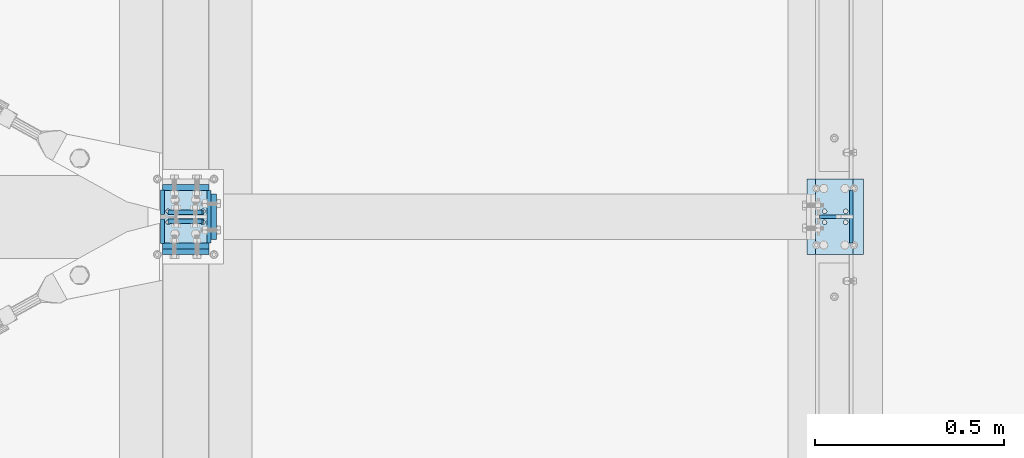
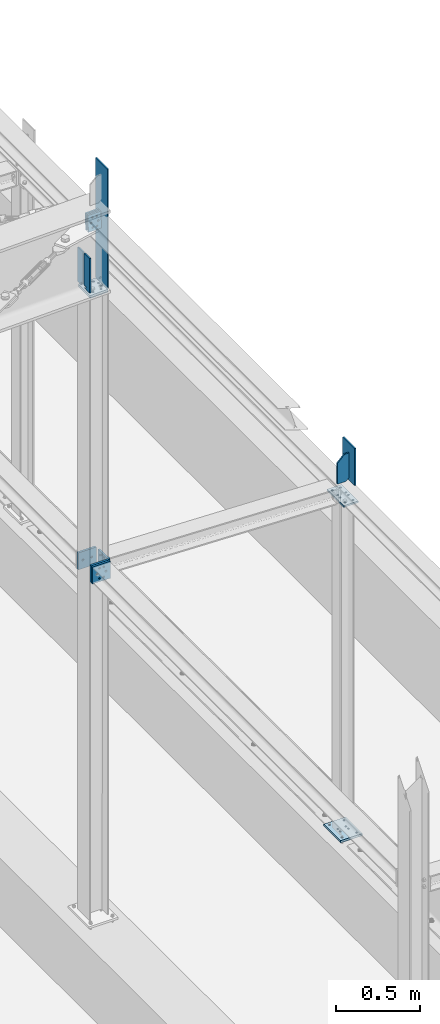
# One storey, part 43 of 476: 14 plates, 61 openings.
"""IFC2X3 building model written with IfcOpenShell, lengths in millimetres."""

from ifc_helpers import new_model, entity, si_unit, converted_unit, point, frame, frame_2d, origin, origin_with_axes, origin_2d_with_axis, place, context, project, spatial, polyline, circle_curve, line_curve, trimmed, segment, composite_curve, circle, outline, extrude, material, layer, layer_set, element, save


model = new_model("IFC2X3")

# Units and contexts
model_context = context("Model", 3, precision=1e-09, world=origin_with_axes())
ifc_project = project(units=[si_unit("LENGTHUNIT", "METRE", prefix="MILLI"), si_unit("AREAUNIT", "SQUARE_METRE"), si_unit("VOLUMEUNIT", "CUBIC_METRE"), converted_unit("PLANEANGLEUNIT", "DEGREE", entity("IfcPlaneAngleMeasure", 0.01745329), si_unit("PLANEANGLEUNIT", "RADIAN"), dimensions=[0, 0, 0, 0, 0, 0, 0])], contexts=[model_context])

# Site, building, storey
site_placement = place(None, origin_with_axes())
site = spatial("IfcSite", under=ifc_project, at=site_placement, Name="mKR Teilneubau & Sanierung BA1 - Ostfildern", CompositionType="ELEMENT")
building_placement = place(site_placement, origin_with_axes())
building = spatial("IfcBuilding", under=site, at=building_placement, Name="Struktur 1", CompositionType="ELEMENT")
storey_placement = place(building_placement, origin_with_axes())
storey = spatial("IfcBuildingStorey", under=building, at=storey_placement, Name="Default Storey", CompositionType="ELEMENT", Elevation=0.0)

# Plate
ifc_material = material(Name="S235JR")
ifc_layer_1 = layer(ifc_material, 10.0)
ifc_layer_set_1 = layer_set([ifc_layer_1], Name="S235JR")
plate_1_placement = place(None, frame((23723.608764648, -17475.67387897, 2465.729061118), z_axis=(1.0, 0.0, 0.0), x_axis=(0.0, 1.0, 0.0)))
element("IfcPlate", 1, at=plate_1_placement, inside=storey, material=ifc_layer_set_1, Name="Coverplate", ObjectType="Coverplate", context=model_context, shape_type="SweptSolid", body=[
    extrude(outline(polyline([(0.0, 600.270938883), (140.0, 600.270938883), (140.0, 870.270938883), (0.0, 870.270938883), (0.0, 600.270938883)])), origin_with_axes(), (0.0, 0.0, 1.0), 10.0),
])

# Plate, openings
plate_2_placement = place(None, frame((23643.608764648, -17400.67387897, 3266.000000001), z_axis=(0.0, 1.0, 0.0), x_axis=(1.0, 0.0, 0.0)))
plate_2 = element("IfcPlate", 2, at=plate_2_placement, inside=storey, material=ifc_layer_set_1, Name="-", ObjectType="-", context=model_context, shape_type="SweptSolid", body=[
    extrude(outline(polyline([(0.0, 0.0), (80.0, 0.0), (80.0, 200.0), (0.0, 200.0), (0.0, 0.0)])), origin_with_axes(), (0.0, 0.0, -1.0), 10.0),
])
opening_1_placement = place(plate_2_placement, frame((0.0, 0.0, 0.01), z_axis=(0.0, 0.0, 1.0), x_axis=(1.0, 0.0, 0.0)))
element("IfcOpeningElement", 3, at=opening_1_placement, cuts=plate_2, ObjectType="Opening", context=model_context, shape_type="SweptSolid", body=[
    extrude(outline(polyline([(0.0, 0.0), (50.0, 0.0), (0.0, 50.0), (0.0, 0.0)])), origin(), (0.0, 0.0, -1.0), 10.02),
])
opening_2_placement = place(plate_2_placement, frame((80.0, 200.0, 0.01), z_axis=(0.0, 0.0, 1.0), x_axis=(-1.0, 0.0, 0.0)))
element("IfcOpeningElement", 4, at=opening_2_placement, cuts=plate_2, ObjectType="Opening", context=model_context, shape_type="SweptSolid", body=[
    extrude(outline(polyline([(0.0, 0.0), (20.0, 0.0), (0.0, 20.0), (0.0, 0.0)])), origin(), (0.0, 0.0, -1.0), 10.02),
])

ifc_layer_2 = layer(ifc_material, 15.0)
ifc_layer_set_2 = layer_set([ifc_layer_2], Name="S235JR")
plate_3_placement = place(None, frame((23760.608764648, -17305.67387897, 540.0), z_axis=(0.0, 0.0, -1.0), x_axis=(0.0, -1.0, 0.0)))
plate_3 = element("IfcPlate", 5, at=plate_3_placement, inside=storey, material=ifc_layer_set_2, Name="Baseplate", ObjectType="Baseplate", context=model_context, shape_type="SweptSolid", body=[
    extrude(outline(polyline([(0.0, 0.0), (200.0, 0.0), (200.0, 150.0), (0.0, 150.0), (0.0, 0.0)])), origin_with_axes(), (0.0, 0.0, 1.0), 15.0),
])
opening_3_placement = place(plate_3_placement, frame((85.5, 103.0, 15.5), z_axis=(0.0, 0.0, -1.0), x_axis=(0.0, -1.0, 0.0)))
element("IfcOpeningElement", 6, at=opening_3_placement, cuts=plate_3, ObjectType="Opening", context=model_context, shape_type="SweptSolid", body=[
    extrude(circle(Radius=6.001, at=origin_2d_with_axis()), origin(), (0.0, 0.0, 1.0), 16.0),
])
opening_4_placement = place(plate_3_placement, frame((85.5, 47.0, 15.5), z_axis=(0.0, 0.0, -1.0), x_axis=(0.0, -1.0, 0.0)))
element("IfcOpeningElement", 7, at=opening_4_placement, cuts=plate_3, ObjectType="Opening", context=model_context, shape_type="SweptSolid", body=[
    extrude(circle(Radius=6.001, at=origin_2d_with_axis()), origin(), (0.0, 0.0, 1.0), 16.0),
])
opening_5_placement = place(plate_3_placement, frame((114.5, 47.0, 15.5), z_axis=(0.0, 0.0, -1.0), x_axis=(0.0, -1.0, 0.0)))
element("IfcOpeningElement", 8, at=opening_5_placement, cuts=plate_3, ObjectType="Opening", context=model_context, shape_type="SweptSolid", body=[
    extrude(circle(Radius=6.001, at=origin_2d_with_axis()), origin(), (0.0, 0.0, 1.0), 16.0),
])
opening_6_placement = place(plate_3_placement, frame((114.5, 103.0, 15.5), z_axis=(0.0, 0.0, -1.0), x_axis=(0.0, -1.0, 0.0)))
element("IfcOpeningElement", 9, at=opening_6_placement, cuts=plate_3, ObjectType="Opening", context=model_context, shape_type="SweptSolid", body=[
    extrude(circle(Radius=6.001, at=origin_2d_with_axis()), origin(), (0.0, 0.0, 1.0), 16.0),
])
opening_7_placement = place(plate_3_placement, frame((100.0, 75.0, 15.5), z_axis=(0.0, 0.0, -1.0), x_axis=(1.0, 0.0, 0.0)))
element("IfcOpeningElement", 10, at=opening_7_placement, cuts=plate_3, ObjectType="Opening", context=model_context, shape_type="SweptSolid", body=[
    extrude(circle(Radius=6.001, at=frame_2d((75.0, 50.0), x_axis=(1.0, 0.0))), origin(), (0.0, 0.0, 1.0), 16.0),
])
opening_8_placement = place(plate_3_placement, frame((100.0, 75.0, 15.5), z_axis=(0.0, 0.0, -1.0), x_axis=(1.0, 0.0, 0.0)))
element("IfcOpeningElement", 11, at=opening_8_placement, cuts=plate_3, ObjectType="Opening", context=model_context, shape_type="SweptSolid", body=[
    extrude(circle(Radius=6.001, at=frame_2d((-75.0, 50.0), x_axis=(1.0, 0.0))), origin(), (0.0, 0.0, 1.0), 16.0),
])
opening_9_placement = place(plate_3_placement, frame((100.0, 75.0, 15.5), z_axis=(0.0, 0.0, -1.0), x_axis=(1.0, 0.0, 0.0)))
element("IfcOpeningElement", 12, at=opening_9_placement, cuts=plate_3, ObjectType="Opening", context=model_context, shape_type="SweptSolid", body=[
    extrude(circle(Radius=6.001, at=frame_2d((75.0, -50.0), x_axis=(1.0, 0.0))), origin(), (0.0, 0.0, 1.0), 16.0),
])
opening_10_placement = place(plate_3_placement, frame((100.0, 75.0, 15.5), z_axis=(0.0, 0.0, -1.0), x_axis=(1.0, 0.0, 0.0)))
element("IfcOpeningElement", 13, at=opening_10_placement, cuts=plate_3, ObjectType="Opening", context=model_context, shape_type="SweptSolid", body=[
    extrude(circle(Radius=6.001, at=frame_2d((-75.0, -50.0), x_axis=(1.0, 0.0))), origin(), (0.0, 0.0, 1.0), 16.0),
])

plate_4_placement = place(None, frame((21965.608764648, -17335.67387897, 3068.000017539), z_axis=(0.0, 1.0, 0.0), x_axis=(1.0, 0.0, 0.0)))
plate_4 = element("IfcPlate", 14, at=plate_4_placement, inside=storey, material=ifc_layer_set_2, Name="T-plate", ObjectType="T-plate", context=model_context, shape_type="SweptSolid", body=[
    extrude(outline(polyline([(-62.0, -62.0), (62.0, -62.0), (62.0, 62.0), (-62.0, 62.0), (-62.0, -62.0)])), origin_with_axes(), (0.0, 0.0, 1.0), 15.0),
])
opening_11_placement = place(plate_4_placement, frame((30.000015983, 0.0, -0.5), z_axis=(0.0, 0.0, 1.0), x_axis=(0.0, -1.0, 0.0)))
element("IfcOpeningElement", 15, at=opening_11_placement, cuts=plate_4, ObjectType="Opening", context=model_context, shape_type="SweptSolid", body=[
    extrude(circle(Radius=7.001, at=origin_2d_with_axis()), origin(), (0.0, 0.0, 1.0), 16.0),
])
opening_12_placement = place(plate_4_placement, frame((-29.999984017, 0.0, -0.5), z_axis=(0.0, 0.0, 1.0), x_axis=(-1.0, 0.0, 0.0)))
element("IfcOpeningElement", 16, at=opening_12_placement, cuts=plate_4, ObjectType="Opening", context=model_context, shape_type="SweptSolid", body=[
    extrude(circle(Radius=7.001, at=origin_2d_with_axis()), origin(), (0.0, 0.0, 1.0), 16.0),
])

plate_5_placement = place(None, frame((21965.608780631, -17505.67387897, 3068.000017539), z_axis=(0.0, 1.0, 0.0), x_axis=(0.0, 0.0, -1.0)))
plate_5 = element("IfcPlate", 17, at=plate_5_placement, inside=storey, material=ifc_layer_set_2, Name="Endplate#1", ObjectType="Endplate#1", context=model_context, shape_type="SweptSolid", body=[
    extrude(outline(polyline([(-62.0, -62.0), (62.0, -62.0), (62.0, 62.0), (-62.0, 62.0), (-62.0, -62.0)])), origin_with_axes(), (0.0, 0.0, 1.0), 15.0),
])
opening_13_placement = place(plate_5_placement, frame((37.0, 14.5, 15.5), z_axis=(0.0, 0.0, -1.0), x_axis=(-1.0, 0.0, 0.0)))
element("IfcOpeningElement", 18, at=opening_13_placement, cuts=plate_5, ObjectType="Opening", context=model_context, shape_type="SweptSolid", body=[
    extrude(circle(Radius=6.001, at=origin_2d_with_axis()), origin(), (0.0, 0.0, 1.0), 16.0),
])
opening_14_placement = place(plate_5_placement, frame((-37.0, 14.5, 15.5), z_axis=(0.0, 0.0, -1.0), x_axis=(-1.0, 0.0, 0.0)))
element("IfcOpeningElement", 19, at=opening_14_placement, cuts=plate_5, ObjectType="Opening", context=model_context, shape_type="SweptSolid", body=[
    extrude(circle(Radius=6.001, at=origin_2d_with_axis()), origin(), (0.0, 0.0, 1.0), 16.0),
])
opening_15_placement = place(plate_5_placement, frame((-37.0, -14.5, 15.5), z_axis=(0.0, 0.0, -1.0), x_axis=(-1.0, 0.0, 0.0)))
element("IfcOpeningElement", 20, at=opening_15_placement, cuts=plate_5, ObjectType="Opening", context=model_context, shape_type="SweptSolid", body=[
    extrude(circle(Radius=6.001, at=origin_2d_with_axis()), origin(), (0.0, 0.0, 1.0), 16.0),
])
opening_16_placement = place(plate_5_placement, frame((37.0, -14.5, 15.5), z_axis=(0.0, 0.0, -1.0), x_axis=(-1.0, 0.0, 0.0)))
element("IfcOpeningElement", 21, at=opening_16_placement, cuts=plate_5, ObjectType="Opening", context=model_context, shape_type="SweptSolid", body=[
    extrude(circle(Radius=6.001, at=origin_2d_with_axis()), origin(), (0.0, 0.0, 1.0), 16.0),
])
opening_17_placement = place(plate_5_placement, frame((0.0, 30.0, 15.5), z_axis=(0.0, 0.0, -1.0), x_axis=(-1.0, 0.0, 0.0)))
element("IfcOpeningElement", 22, at=opening_17_placement, cuts=plate_5, ObjectType="Opening", context=model_context, shape_type="SweptSolid", body=[
    extrude(circle(Radius=7.001, at=origin_2d_with_axis()), origin(), (0.0, 0.0, 1.0), 16.0),
])
opening_18_placement = place(plate_5_placement, frame((0.0, -30.0, 15.5), z_axis=(0.0, 0.0, -1.0), x_axis=(0.0, -1.0, 0.0)))
element("IfcOpeningElement", 23, at=opening_18_placement, cuts=plate_5, ObjectType="Opening", context=model_context, shape_type="SweptSolid", body=[
    extrude(circle(Radius=7.001, at=origin_2d_with_axis()), origin(), (0.0, 0.0, 1.0), 16.0),
])

plate_6_placement = place(None, frame((21965.608764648, -17475.67387897, 3068.000017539), z_axis=(0.0, -1.0, 0.0), x_axis=(-1.0, 0.0, 0.0)))
plate_6 = element("IfcPlate", 24, at=plate_6_placement, inside=storey, material=ifc_layer_set_2, Name="T-plate", ObjectType="T-plate", context=model_context, shape_type="SweptSolid", body=[
    extrude(outline(polyline([(-62.0, -62.0), (62.0, -62.0), (62.0, 62.0), (-62.0, 62.0), (-62.0, -62.0)])), origin_with_axes(), (0.0, 0.0, 1.0), 15.0),
])
opening_19_placement = place(plate_6_placement, frame((29.999984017, 0.0, -0.5), z_axis=(0.0, 0.0, 1.0), x_axis=(0.0, -1.0, 0.0)))
element("IfcOpeningElement", 25, at=opening_19_placement, cuts=plate_6, ObjectType="Opening", context=model_context, shape_type="SweptSolid", body=[
    extrude(circle(Radius=7.001, at=origin_2d_with_axis()), origin(), (0.0, 0.0, 1.0), 16.0),
])
opening_20_placement = place(plate_6_placement, frame((-30.000015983, 0.0, -0.5), z_axis=(0.0, 0.0, 1.0), x_axis=(-1.0, 0.0, 0.0)))
element("IfcOpeningElement", 26, at=opening_20_placement, cuts=plate_6, ObjectType="Opening", context=model_context, shape_type="SweptSolid", body=[
    extrude(circle(Radius=7.001, at=origin_2d_with_axis()), origin(), (0.0, 0.0, 1.0), 16.0),
])

# Plate
plate_7_placement = place(None, frame((22022.108764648, -17475.67387897, 5095.440131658), z_axis=(1.0, 0.0, 0.0), x_axis=(0.0, 1.0, 0.0)))
element("IfcPlate", 27, at=plate_7_placement, inside=storey, material=ifc_layer_set_1, Name="Coverplate", ObjectType="Coverplate", context=model_context, shape_type="SweptSolid", body=[
    extrude(outline(polyline([(0.0, 0.0), (140.0, 0.0), (140.0, 870.270938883), (0.0, 870.270938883), (0.0, 0.0)])), origin_with_axes(), (0.0, 0.0, 1.0), 10.0),
])

# Plate, openings
ifc_layer_3 = layer(ifc_material, 20.0)
ifc_layer_set_3 = layer_set([ifc_layer_3], Name="S235JR")
plate_8_placement = place(None, frame((22027.111021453, -17475.67387897, 5070.581445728), z_axis=(-0.030041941, 0.0, 0.999548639), x_axis=(0.0, 1.0, 0.0)))
plate_8 = element("IfcPlate", 28, at=plate_8_placement, inside=storey, material=ifc_layer_set_3, Name="Endplate", ObjectType="Endplate", context=model_context, shape_type="SweptSolid", body=[
    extrude(outline(polyline([(0.0, 0.0), (140.0, 0.0), (140.0, 123.060058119), (0.0, 123.060058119), (0.0, 0.0)])), origin_with_axes(), (0.0, 0.0, 1.0), 20.0),
])
opening_21_placement = place(plate_8_placement, frame((84.75, 107.556219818, 20.5), z_axis=(0.0, 0.0, -1.0), x_axis=(0.0, 1.0, 0.0)))
element("IfcOpeningElement", 29, at=opening_21_placement, cuts=plate_8, ObjectType="Opening", context=model_context, shape_type="SweptSolid", body=[
    extrude(circle(Radius=6.001, at=origin_2d_with_axis()), origin(), (0.0, 0.0, 1.0), 21.0),
])
opening_22_placement = place(plate_8_placement, frame((84.75, 15.503838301, 20.5), z_axis=(0.0, 0.0, -1.0), x_axis=(0.0, 1.0, 0.0)))
element("IfcOpeningElement", 30, at=opening_22_placement, cuts=plate_8, ObjectType="Opening", context=model_context, shape_type="SweptSolid", body=[
    extrude(circle(Radius=6.001, at=origin_2d_with_axis()), origin(), (0.0, 0.0, 1.0), 21.0),
])
opening_23_placement = place(plate_8_placement, frame((55.25, 15.503838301, 20.5), z_axis=(0.0, 0.0, -1.0), x_axis=(0.0, 1.0, 0.0)))
element("IfcOpeningElement", 31, at=opening_23_placement, cuts=plate_8, ObjectType="Opening", context=model_context, shape_type="SweptSolid", body=[
    extrude(circle(Radius=6.001, at=origin_2d_with_axis()), origin(), (0.0, 0.0, 1.0), 21.0),
])
opening_24_placement = place(plate_8_placement, frame((55.25, 107.556219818, 20.5), z_axis=(0.0, 0.0, -1.0), x_axis=(0.0, 1.0, 0.0)))
element("IfcOpeningElement", 32, at=opening_24_placement, cuts=plate_8, ObjectType="Opening", context=model_context, shape_type="SweptSolid", body=[
    extrude(circle(Radius=6.001, at=origin_2d_with_axis()), origin(), (0.0, 0.0, 1.0), 21.0),
])
opening_25_placement = place(plate_8_placement, frame((17.999, 89.03, -0.5), z_axis=(0.0, 0.0, -1.0), x_axis=(-1.0, 0.0, 0.0)))
element("IfcOpeningElement", 33, at=opening_25_placement, cuts=plate_8, ObjectType="Opening", context=model_context, shape_type="SweptSolid", body=[
    extrude(circle(Radius=7.001, at=frame_2d((-7.001, 0.0), x_axis=(1.0, 0.0))), origin(), (0.0, 0.0, -1.0), 21.0),
])
opening_26_placement = place(plate_8_placement, frame((107.999, 89.03, -0.5), z_axis=(0.0, 0.0, -1.0), x_axis=(-1.0, 0.0, 0.0)))
element("IfcOpeningElement", 34, at=opening_26_placement, cuts=plate_8, ObjectType="Opening", context=model_context, shape_type="SweptSolid", body=[
    extrude(circle(Radius=7.001, at=frame_2d((-7.001, 0.0), x_axis=(1.0, 0.0))), origin(), (0.0, 0.0, -1.0), 21.0),
])
opening_27_placement = place(plate_8_placement, frame((17.999, 34.03, -0.5), z_axis=(0.0, 0.0, -1.0), x_axis=(-1.0, 0.0, 0.0)))
element("IfcOpeningElement", 35, at=opening_27_placement, cuts=plate_8, ObjectType="Opening", context=model_context, shape_type="SweptSolid", body=[
    extrude(circle(Radius=7.001, at=frame_2d((-7.001, 0.0), x_axis=(1.0, 0.0))), origin(), (0.0, 0.0, -1.0), 21.0),
])
opening_28_placement = place(plate_8_placement, frame((107.999, 34.03, -0.5), z_axis=(0.0, 0.0, -1.0), x_axis=(-1.0, 0.0, 0.0)))
element("IfcOpeningElement", 36, at=opening_28_placement, cuts=plate_8, ObjectType="Opening", context=model_context, shape_type="SweptSolid", body=[
    extrude(circle(Radius=7.001, at=frame_2d((-7.001, 0.0), x_axis=(1.0, 0.0))), origin(), (0.0, 0.0, -1.0), 21.0),
])

plate_9_placement = place(None, frame((21909.108764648, -17411.67387897, 5107.553116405), z_axis=(-1.0, 0.0, 0.0), x_axis=(0.0, -1.0, 0.0)))
plate_9 = element("IfcPlate", 37, at=plate_9_placement, inside=storey, material=ifc_layer_set_1, Name="Stiffener#2", ObjectType="Stiffener#2", context=model_context, shape_type="SweptSolid", body=[
    extrude(outline(polyline([(0.0, 0.0), (65.0, 0.0), (65.0, 250.0), (0.0, 250.0), (0.0, 0.0)])), origin_with_axes(), (0.0, 0.0, 1.0), 10.0),
])
opening_29_placement = place(plate_9_placement, frame((0.0, 0.0, -0.01), z_axis=(0.0, 0.0, 1.0), x_axis=(1.0, 0.0, 0.0)))
element("IfcOpeningElement", 38, at=opening_29_placement, cuts=plate_9, ObjectType="Opening", context=model_context, shape_type="SweptSolid", body=[
    extrude(outline(composite_curve([segment(trimmed(line_curve((0.0, 0.0), (1.0, 0.0), 25.0), [point((0.0, 0.0))], [point((25.0, 0.0))], True, "CARTESIAN"), True, "CONTINUOUS"), segment(trimmed(circle_curve(frame_2d((25.0, 25.0), x_axis=(-1.0, 0.0)), 25.0), [point((25.0, 0.0))], [point((0.0, 25.0))], False, "CARTESIAN"), True, "CONTINUOUS"), segment(trimmed(line_curve((0.0, 25.0), (0.0, -1.0), 25.0), [point((0.0, 25.0))], [point((0.0, 0.0))], True, "CARTESIAN"), True, "CONTINUOUS")], self_intersect=False)), origin(), (0.0, 0.0, 1.0), 10.02),
])
opening_30_placement = place(plate_9_placement, frame((24.0, 22.198767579, -0.5), z_axis=(0.0, 0.0, 1.0), x_axis=(0.0, -1.0, 0.0)))
element("IfcOpeningElement", 39, at=opening_30_placement, cuts=plate_9, ObjectType="Opening", context=model_context, shape_type="SweptSolid", body=[
    extrude(circle(Radius=7.001, at=frame_2d((7.0, -7.0), x_axis=(1.0, 0.0))), origin(), (0.0, 0.0, 1.0), 11.0),
])

plate_10_placement = place(None, frame((21909.108764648, -17334.67387897, 5107.553116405), z_axis=(-1.0, 0.0, 0.0), x_axis=(0.0, -1.0, 0.0)))
plate_10 = element("IfcPlate", 40, at=plate_10_placement, inside=storey, material=ifc_layer_set_1, Name="Stiffener#2", ObjectType="Stiffener#2", context=model_context, shape_type="SweptSolid", body=[
    extrude(outline(polyline([(0.0, 0.0), (65.0, 0.0), (65.0, 250.0), (0.0, 250.0), (0.0, 0.0)])), origin_with_axes(), (0.0, 0.0, 1.0), 10.0),
])
opening_31_placement = place(plate_10_placement, frame((0.0, 0.0, -0.01), z_axis=(0.0, 0.0, 1.0), x_axis=(1.0, 0.0, 0.0)))
element("IfcOpeningElement", 41, at=opening_31_placement, cuts=plate_10, ObjectType="Opening", context=model_context, shape_type="SweptSolid", body=[
    extrude(outline(composite_curve([segment(trimmed(line_curve((65.0, 0.0), (0.0, 1.0), 25.0), [point((65.0, 0.0))], [point((65.0, 25.0))], True, "CARTESIAN"), True, "CONTINUOUS"), segment(trimmed(circle_curve(frame_2d((40.0, 25.0), x_axis=(-1.0, 0.0)), 25.0), [point((65.0, 25.0))], [point((40.0, 0.0))], False, "CARTESIAN"), True, "CONTINUOUS"), segment(trimmed(line_curve((40.0, 0.0), (1.0, 0.0), 25.0), [point((40.0, 0.0))], [point((65.0, 0.0))], True, "CARTESIAN"), True, "CONTINUOUS")], self_intersect=False)), origin(), (0.0, 0.0, 1.0), 10.02),
])
opening_32_placement = place(plate_10_placement, frame((41.0, 22.198767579, -0.5), z_axis=(0.0, 0.0, 1.0), x_axis=(0.0, -1.0, 0.0)))
element("IfcOpeningElement", 42, at=opening_32_placement, cuts=plate_10, ObjectType="Opening", context=model_context, shape_type="SweptSolid", body=[
    extrude(circle(Radius=7.001, at=frame_2d((7.0, 7.0), x_axis=(1.0, 0.0))), origin(), (0.0, 0.0, 1.0), 11.0),
])

ifc_layer_4 = layer(ifc_material, 12.0)
ifc_layer_set_4 = layer_set([ifc_layer_4], Name="S235JR")
plate_11_placement = place(None, frame((22008.725869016, -17411.67387897, 5635.31111627), z_axis=(0.0, -1.0, 0.0), x_axis=(-0.999548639, 0.0, -0.030041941)))
plate_11 = element("IfcPlate", 43, at=plate_11_placement, inside=storey, material=ifc_layer_set_4, Name="Endplate", ObjectType="Endplate", context=model_context, shape_type="SweptSolid", body=[
    extrude(outline(polyline([(0.0, 0.0), (90.0, 0.0), (90.0, 124.0), (0.0, 124.0), (0.0, 0.0)])), origin_with_axes(), (0.0, 0.0, 1.0), 12.0),
])
opening_33_placement = place(plate_11_placement, frame((20.0, 62.0, -0.5), z_axis=(0.0, 0.0, 1.0), x_axis=(0.0, -1.0, 0.0)))
element("IfcOpeningElement", 44, at=opening_33_placement, cuts=plate_11, ObjectType="Opening", context=model_context, shape_type="SweptSolid", body=[
    extrude(circle(Radius=7.001, at=origin_2d_with_axis()), origin(), (0.0, 0.0, 1.0), 13.0),
])
opening_34_placement = place(plate_11_placement, frame((70.0, 62.0, -0.5), z_axis=(0.0, 0.0, 1.0), x_axis=(0.0, -1.0, 0.0)))
element("IfcOpeningElement", 45, at=opening_34_placement, cuts=plate_11, ObjectType="Opening", context=model_context, shape_type="SweptSolid", body=[
    extrude(circle(Radius=7.001, at=origin_2d_with_axis()), origin(), (0.0, 0.0, 1.0), 13.0),
])
opening_35_placement = place(plate_11_placement, frame((59.5, 99.0, -0.5), z_axis=(0.0, 0.0, 1.0), x_axis=(0.0, -1.0, 0.0)))
element("IfcOpeningElement", 46, at=opening_35_placement, cuts=plate_11, ObjectType="Opening", context=model_context, shape_type="SweptSolid", body=[
    extrude(circle(Radius=6.001, at=origin_2d_with_axis()), origin(), (0.0, 0.0, 1.0), 13.0),
])
opening_36_placement = place(plate_11_placement, frame((59.5, 25.0, -0.5), z_axis=(0.0, 0.0, 1.0), x_axis=(0.0, -1.0, 0.0)))
element("IfcOpeningElement", 47, at=opening_36_placement, cuts=plate_11, ObjectType="Opening", context=model_context, shape_type="SweptSolid", body=[
    extrude(circle(Radius=6.001, at=origin_2d_with_axis()), origin(), (0.0, 0.0, 1.0), 13.0),
])
opening_37_placement = place(plate_11_placement, frame((30.5, 25.0, -0.5), z_axis=(0.0, 0.0, 1.0), x_axis=(0.0, -1.0, 0.0)))
element("IfcOpeningElement", 48, at=opening_37_placement, cuts=plate_11, ObjectType="Opening", context=model_context, shape_type="SweptSolid", body=[
    extrude(circle(Radius=6.001, at=origin_2d_with_axis()), origin(), (0.0, 0.0, 1.0), 13.0),
])
opening_38_placement = place(plate_11_placement, frame((30.5, 99.0, -0.5), z_axis=(0.0, 0.0, 1.0), x_axis=(0.0, -1.0, 0.0)))
element("IfcOpeningElement", 49, at=opening_38_placement, cuts=plate_11, ObjectType="Opening", context=model_context, shape_type="SweptSolid", body=[
    extrude(circle(Radius=6.001, at=origin_2d_with_axis()), origin(), (0.0, 0.0, 1.0), 13.0),
])

plate_12_placement = place(None, frame((21918.766491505, -17399.67387897, 5632.607341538), z_axis=(0.0, 1.0, 0.0), x_axis=(0.999548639, 0.0, 0.030041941)))
plate_12 = element("IfcPlate", 50, at=plate_12_placement, inside=storey, material=ifc_layer_set_4, Name="Endplate", ObjectType="Endplate", context=model_context, shape_type="SweptSolid", body=[
    extrude(outline(polyline([(0.0, 0.0), (90.0, 0.0), (90.0, 124.0), (0.0, 124.0), (0.0, 0.0)])), origin_with_axes(), (0.0, 0.0, 1.0), 12.0),
])
opening_39_placement = place(plate_12_placement, frame((20.0, 62.0, 12.5), z_axis=(0.0, 0.0, -1.0), x_axis=(0.0, -1.0, 0.0)))
element("IfcOpeningElement", 51, at=opening_39_placement, cuts=plate_12, ObjectType="Opening", context=model_context, shape_type="SweptSolid", body=[
    extrude(circle(Radius=7.001, at=origin_2d_with_axis()), origin(), (0.0, 0.0, 1.0), 13.0),
])
opening_40_placement = place(plate_12_placement, frame((70.0, 62.0, 12.5), z_axis=(0.0, 0.0, -1.0), x_axis=(0.0, -1.0, 0.0)))
element("IfcOpeningElement", 52, at=opening_40_placement, cuts=plate_12, ObjectType="Opening", context=model_context, shape_type="SweptSolid", body=[
    extrude(circle(Radius=7.001, at=origin_2d_with_axis()), origin(), (0.0, 0.0, 1.0), 13.0),
])
opening_41_placement = place(plate_12_placement, frame((30.5, 99.0, -0.5), z_axis=(0.0, 0.0, 1.0), x_axis=(0.0, 1.0, 0.0)))
element("IfcOpeningElement", 53, at=opening_41_placement, cuts=plate_12, ObjectType="Opening", context=model_context, shape_type="SweptSolid", body=[
    extrude(circle(Radius=6.001, at=origin_2d_with_axis()), origin(), (0.0, 0.0, 1.0), 13.0),
])
opening_42_placement = place(plate_12_placement, frame((30.5, 25.0, -0.5), z_axis=(0.0, 0.0, 1.0), x_axis=(0.0, 1.0, 0.0)))
element("IfcOpeningElement", 54, at=opening_42_placement, cuts=plate_12, ObjectType="Opening", context=model_context, shape_type="SweptSolid", body=[
    extrude(circle(Radius=6.001, at=origin_2d_with_axis()), origin(), (0.0, 0.0, 1.0), 13.0),
])
opening_43_placement = place(plate_12_placement, frame((59.5, 25.0, -0.5), z_axis=(0.0, 0.0, 1.0), x_axis=(0.0, 1.0, 0.0)))
element("IfcOpeningElement", 55, at=opening_43_placement, cuts=plate_12, ObjectType="Opening", context=model_context, shape_type="SweptSolid", body=[
    extrude(circle(Radius=6.001, at=origin_2d_with_axis()), origin(), (0.0, 0.0, 1.0), 13.0),
])
opening_44_placement = place(plate_12_placement, frame((59.5, 99.0, -0.5), z_axis=(0.0, 0.0, 1.0), x_axis=(0.0, 1.0, 0.0)))
element("IfcOpeningElement", 56, at=opening_44_placement, cuts=plate_12, ObjectType="Opening", context=model_context, shape_type="SweptSolid", body=[
    extrude(circle(Radius=6.001, at=origin_2d_with_axis()), origin(), (0.0, 0.0, 1.0), 13.0),
])

plate_13_placement = place(None, frame((23683.608764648, -17405.67387897, 2958.0), z_axis=(0.0, 0.0, 1.0), x_axis=(-1.0, 0.0, 0.0)))
plate_13 = element("IfcPlate", 57, at=plate_13_placement, inside=storey, material=ifc_layer_set_4, Name="Endplate", ObjectType="Endplate", context=model_context, shape_type="SweptSolid", body=[
    extrude(outline(polyline([(-50.0, -100.0), (50.0, -100.0), (50.0, 100.0), (-50.0, 100.0), (-50.0, -100.0)])), origin_with_axes(), (0.0, 0.0, 1.0), 12.0),
])
opening_45_placement = place(plate_13_placement, frame((26.0, -14.5, 12.5), z_axis=(0.0, 0.0, -1.0), x_axis=(1.0, 0.0, 0.0)))
element("IfcOpeningElement", 58, at=opening_45_placement, cuts=plate_13, ObjectType="Opening", context=model_context, shape_type="SweptSolid", body=[
    extrude(circle(Radius=6.001, at=origin_2d_with_axis()), origin(), (0.0, 0.0, 1.0), 13.0),
])
opening_46_placement = place(plate_13_placement, frame((-30.0, -14.5, 12.5), z_axis=(0.0, 0.0, -1.0), x_axis=(1.0, 0.0, 0.0)))
element("IfcOpeningElement", 59, at=opening_46_placement, cuts=plate_13, ObjectType="Opening", context=model_context, shape_type="SweptSolid", body=[
    extrude(circle(Radius=6.001, at=origin_2d_with_axis()), origin(), (0.0, 0.0, 1.0), 13.0),
])
opening_47_placement = place(plate_13_placement, frame((-30.0, 14.5, 12.5), z_axis=(0.0, 0.0, -1.0), x_axis=(1.0, 0.0, 0.0)))
element("IfcOpeningElement", 60, at=opening_47_placement, cuts=plate_13, ObjectType="Opening", context=model_context, shape_type="SweptSolid", body=[
    extrude(circle(Radius=6.001, at=origin_2d_with_axis()), origin(), (0.0, 0.0, 1.0), 13.0),
])
opening_48_placement = place(plate_13_placement, frame((26.0, 14.5, 12.5), z_axis=(0.0, 0.0, -1.0), x_axis=(1.0, 0.0, 0.0)))
element("IfcOpeningElement", 61, at=opening_48_placement, cuts=plate_13, ObjectType="Opening", context=model_context, shape_type="SweptSolid", body=[
    extrude(circle(Radius=6.001, at=origin_2d_with_axis()), origin(), (0.0, 0.0, 1.0), 13.0),
])
opening_49_placement = place(plate_13_placement, frame((-50.0, 50.001, 0.0), z_axis=(0.0, -1.0, 0.0), x_axis=(1.0, 0.0, 0.0)))
element("IfcOpeningElement", 62, at=opening_49_placement, cuts=plate_13, ObjectType="Opening", context=model_context, shape_type="SweptSolid", body=[
    extrude(outline(polyline([(0.0, 0.0), (4.0, 0.0), (0.0, 4.0), (0.0, 0.0)])), origin(), (0.0, 0.0, 1.0), 100.022),
])
opening_50_placement = place(plate_13_placement, frame((-28.0, 67.999, -0.5), z_axis=(0.0, 0.0, -1.0), x_axis=(-1.0, 0.0, 0.0)))
element("IfcOpeningElement", 63, at=opening_50_placement, cuts=plate_13, ObjectType="Opening", context=model_context, shape_type="SweptSolid", body=[
    extrude(circle(Radius=7.001, at=frame_2d((0.0, 7.001), x_axis=(1.0, 0.0))), origin(), (0.0, 0.0, -1.0), 13.0),
])
opening_51_placement = place(plate_13_placement, frame((28.0, 67.999, -0.5), z_axis=(0.0, 0.0, -1.0), x_axis=(-1.0, 0.0, 0.0)))
element("IfcOpeningElement", 64, at=opening_51_placement, cuts=plate_13, ObjectType="Opening", context=model_context, shape_type="SweptSolid", body=[
    extrude(circle(Radius=7.001, at=frame_2d((0.0, 7.001), x_axis=(1.0, 0.0))), origin(), (0.0, 0.0, -1.0), 13.0),
])
opening_52_placement = place(plate_13_placement, frame((-28.0, -67.999, -0.5), z_axis=(0.0, 0.0, -1.0), x_axis=(-1.0, 0.0, 0.0)))
element("IfcOpeningElement", 65, at=opening_52_placement, cuts=plate_13, ObjectType="Opening", context=model_context, shape_type="SweptSolid", body=[
    extrude(circle(Radius=7.001, at=frame_2d((0.0, -7.001), x_axis=(1.0, 0.0))), origin(), (0.0, 0.0, -1.0), 13.0),
])
opening_53_placement = place(plate_13_placement, frame((28.0, -67.999, -0.5), z_axis=(0.0, 0.0, -1.0), x_axis=(-1.0, 0.0, 0.0)))
element("IfcOpeningElement", 66, at=opening_53_placement, cuts=plate_13, ObjectType="Opening", context=model_context, shape_type="SweptSolid", body=[
    extrude(circle(Radius=7.001, at=frame_2d((0.0, -7.001), x_axis=(1.0, 0.0))), origin(), (0.0, 0.0, -1.0), 13.0),
])

plate_14_placement = place(None, frame((22047.108764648, -17405.67387897, 3065.630813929), z_axis=(-1.0, 0.0, 0.0), x_axis=(0.0, 0.0, -1.0)))
plate_14 = element("IfcPlate", 67, at=plate_14_placement, inside=storey, material=ifc_layer_set_2, Name="Endplate", ObjectType="Endplate", context=model_context, shape_type="SweptSolid", body=[
    extrude(outline(polyline([(-52.0, -60.0), (52.0, -60.0), (52.0, 60.0), (-52.0, 60.0), (-52.0, -60.0)])), origin_with_axes(), (0.0, 0.0, 1.0), 15.0),
])
opening_54_placement = place(plate_14_placement, frame((-37.020699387, 14.5, 15.5), z_axis=(0.0, 0.0, -1.0), x_axis=(-1.0, 0.0, 0.0)))
element("IfcOpeningElement", 68, at=opening_54_placement, cuts=plate_14, ObjectType="Opening", context=model_context, shape_type="SweptSolid", body=[
    extrude(circle(Radius=6.001, at=origin_2d_with_axis()), origin(), (0.0, 0.0, 1.0), 16.0),
])
opening_55_placement = place(plate_14_placement, frame((37.020699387, 14.5, 15.5), z_axis=(0.0, 0.0, -1.0), x_axis=(-1.0, 0.0, 0.0)))
element("IfcOpeningElement", 69, at=opening_55_placement, cuts=plate_14, ObjectType="Opening", context=model_context, shape_type="SweptSolid", body=[
    extrude(circle(Radius=6.001, at=origin_2d_with_axis()), origin(), (0.0, 0.0, 1.0), 16.0),
])
opening_56_placement = place(plate_14_placement, frame((37.020699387, -14.5, 15.5), z_axis=(0.0, 0.0, -1.0), x_axis=(-1.0, 0.0, 0.0)))
element("IfcOpeningElement", 70, at=opening_56_placement, cuts=plate_14, ObjectType="Opening", context=model_context, shape_type="SweptSolid", body=[
    extrude(circle(Radius=6.001, at=origin_2d_with_axis()), origin(), (0.0, 0.0, 1.0), 16.0),
])
opening_57_placement = place(plate_14_placement, frame((-37.020699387, -14.5, 15.5), z_axis=(0.0, 0.0, -1.0), x_axis=(-1.0, 0.0, 0.0)))
element("IfcOpeningElement", 71, at=opening_57_placement, cuts=plate_14, ObjectType="Opening", context=model_context, shape_type="SweptSolid", body=[
    extrude(circle(Radius=6.001, at=origin_2d_with_axis()), origin(), (0.0, 0.0, 1.0), 16.0),
])
opening_58_placement = place(plate_14_placement, frame((-25.0, -35.0, 15.5), z_axis=(0.0, 0.0, -1.0), x_axis=(0.0, -1.0, 0.0)))
element("IfcOpeningElement", 72, at=opening_58_placement, cuts=plate_14, ObjectType="Opening", context=model_context, shape_type="SweptSolid", body=[
    extrude(circle(Radius=7.001, at=origin_2d_with_axis()), origin(), (0.0, 0.0, 1.0), 16.0),
])
opening_59_placement = place(plate_14_placement, frame((25.0, -35.0, 15.5), z_axis=(0.0, 0.0, -1.0), x_axis=(0.0, -1.0, 0.0)))
element("IfcOpeningElement", 73, at=opening_59_placement, cuts=plate_14, ObjectType="Opening", context=model_context, shape_type="SweptSolid", body=[
    extrude(circle(Radius=7.001, at=origin_2d_with_axis()), origin(), (0.0, 0.0, 1.0), 16.0),
])
opening_60_placement = place(plate_14_placement, frame((25.0, 35.0, 15.5), z_axis=(0.0, 0.0, -1.0), x_axis=(0.0, 1.0, 0.0)))
element("IfcOpeningElement", 74, at=opening_60_placement, cuts=plate_14, ObjectType="Opening", context=model_context, shape_type="SweptSolid", body=[
    extrude(circle(Radius=7.001, at=origin_2d_with_axis()), origin(), (0.0, 0.0, 1.0), 16.0),
])
opening_61_placement = place(plate_14_placement, frame((-25.0, 35.0, 15.5), z_axis=(0.0, 0.0, -1.0), x_axis=(0.0, 1.0, 0.0)))
element("IfcOpeningElement", 75, at=opening_61_placement, cuts=plate_14, ObjectType="Opening", context=model_context, shape_type="SweptSolid", body=[
    extrude(circle(Radius=7.001, at=origin_2d_with_axis()), origin(), (0.0, 0.0, 1.0), 16.0),
])

save(model, "model.ifc")
